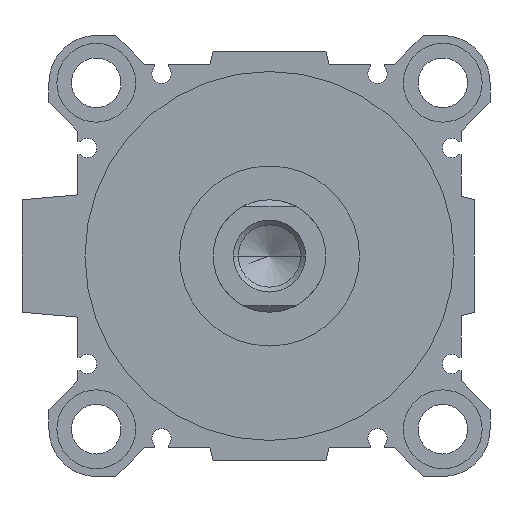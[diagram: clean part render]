
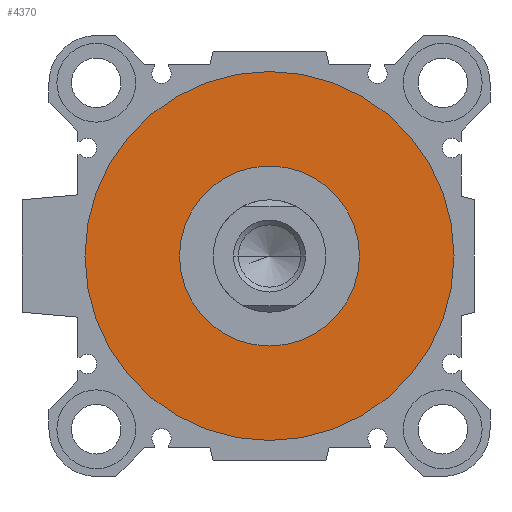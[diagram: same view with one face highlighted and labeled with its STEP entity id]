
A CAD part, left-side view. The second image highlights one B-rep face of the part: STEP entity #4370.
In plain terms, the highlighted planar face has unit normal (-1, 0, 0).
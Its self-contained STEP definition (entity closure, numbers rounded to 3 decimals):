
#151 = AXIS2_PLACEMENT_3D ( 'NONE', #4555, #3781, #382 ) ;
#320 = DIRECTION ( 'NONE',  ( 1., 0., 0. ) ) ;
#382 = DIRECTION ( 'NONE',  ( 0., 1., 0. ) ) ;
#468 = CIRCLE ( 'NONE', #4052, 41. ) ;
#586 = DIRECTION ( 'NONE',  ( 0., 0., -1. ) ) ;
#705 = CARTESIAN_POINT ( 'NONE',  ( 5., 0., 0. ) ) ;
#850 = CARTESIAN_POINT ( 'NONE',  ( 5., 0., 0. ) ) ;
#865 = CARTESIAN_POINT ( 'NONE',  ( 5., 0., -41. ) ) ;
#1216 = CIRCLE ( 'NONE', #3320, 20. ) ;
#1218 = DIRECTION ( 'NONE',  ( 0., 0., -1. ) ) ;
#1231 = EDGE_CURVE ( 'NONE', #3195, #2208, #468, .T. ) ;
#1368 = AXIS2_PLACEMENT_3D ( 'NONE', #705, #320, #2364 ) ;
#1625 = EDGE_CURVE ( 'NONE', #2208, #3195, #5380, .T. ) ;
#1748 = CARTESIAN_POINT ( 'NONE',  ( 5., 0., -20. ) ) ;
#1805 = ORIENTED_EDGE ( 'NONE', *, *, #1625, .F. ) ;
#2102 = PLANE ( 'NONE',  #151 ) ;
#2208 = VERTEX_POINT ( 'NONE', #5206 ) ;
#2244 = EDGE_CURVE ( 'NONE', #2679, #3950, #1216, .T. ) ;
#2312 = ORIENTED_EDGE ( 'NONE', *, *, #2994, .T. ) ;
#2364 = DIRECTION ( 'NONE',  ( 0., 0., -1. ) ) ;
#2479 = FACE_OUTER_BOUND ( 'NONE', #3923, .T. ) ;
#2491 = DIRECTION ( 'NONE',  ( 0., 0., -1. ) ) ;
#2512 = CIRCLE ( 'NONE', #1368, 20. ) ;
#2679 = VERTEX_POINT ( 'NONE', #4485 ) ;
#2994 = EDGE_CURVE ( 'NONE', #3950, #2679, #2512, .T. ) ;
#3039 = EDGE_LOOP ( 'NONE', ( #3150, #2312 ) ) ;
#3150 = ORIENTED_EDGE ( 'NONE', *, *, #2244, .T. ) ;
#3195 = VERTEX_POINT ( 'NONE', #865 ) ;
#3202 = ORIENTED_EDGE ( 'NONE', *, *, #1231, .F. ) ;
#3308 = FACE_BOUND ( 'NONE', #3039, .T. ) ;
#3320 = AXIS2_PLACEMENT_3D ( 'NONE', #4464, #5316, #586 ) ;
#3348 = DIRECTION ( 'NONE',  ( 1., 0., 0. ) ) ;
#3638 = DIRECTION ( 'NONE',  ( 1., 0., 0. ) ) ;
#3781 = DIRECTION ( 'NONE',  ( 1., 0., 0. ) ) ;
#3923 = EDGE_LOOP ( 'NONE', ( #1805, #3202 ) ) ;
#3950 = VERTEX_POINT ( 'NONE', #1748 ) ;
#4052 = AXIS2_PLACEMENT_3D ( 'NONE', #4139, #3638, #1218 ) ;
#4139 = CARTESIAN_POINT ( 'NONE',  ( 5., 0., 0. ) ) ;
#4370 = ADVANCED_FACE ( 'NONE', ( #2479, #3308 ), #2102, .F. ) ;
#4464 = CARTESIAN_POINT ( 'NONE',  ( 5., 0., 0. ) ) ;
#4485 = CARTESIAN_POINT ( 'NONE',  ( 5., 0., 20. ) ) ;
#4555 = CARTESIAN_POINT ( 'NONE',  ( 5., 0., 0. ) ) ;
#5113 = AXIS2_PLACEMENT_3D ( 'NONE', #850, #3348, #2491 ) ;
#5206 = CARTESIAN_POINT ( 'NONE',  ( 5., 0., 41. ) ) ;
#5316 = DIRECTION ( 'NONE',  ( 1., 0., 0. ) ) ;
#5380 = CIRCLE ( 'NONE', #5113, 41. ) ;
